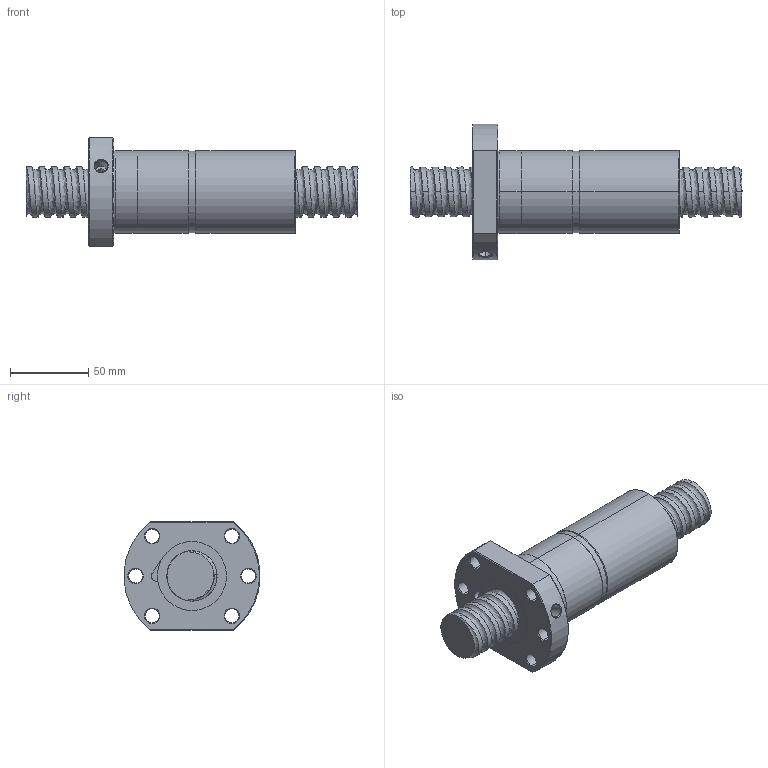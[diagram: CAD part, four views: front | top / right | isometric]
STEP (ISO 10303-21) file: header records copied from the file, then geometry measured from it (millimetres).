
FILE_DESCRIPTION (( 'STEP AP214' ), '1' );
FILE_NAME ('FDDC03208T5-D-C.STEP', '2010-07-06T03:17:46', ( 'XPAUTO' ), ( 'XPAUTO' ), 'SwSTEP 2.0', 'SolidWorks 2007', '' );
FILE_SCHEMA (( 'AUTOMOTIVE_DESIGN' ));
Length unit declared in the file: millimetre
Products named in the file (3): FDDC03208T5-D-C.sldasm-Part-2_預設; FDDC03208T5-D-C.sldasm-Part-1_預設; FDDC03208T5-D-C
Assembly tree (2 placements, depth 2):
  FDDC03208T5-D-C
    FDDC03208T5-D-C.sldasm-Part-2_預設
    FDDC03208T5-D-C.sldasm-Part-1_預設
Bounding box: 212 x 86.7 x 69 mm (x, y, z)
Volume: 378008.4 mm3; surface area: 75194.5 mm2
Topology: 2 solids, 2 shells, 153 faces, 389 edges, 245 vertices
Faces by surface type: cylinder 94, cone 24, plane 22, torus 8, bspline 5
Entity records: 46442 total; most frequent: CARTESIAN_POINT 42837, ORIENTED_EDGE 778, DIRECTION 673, EDGE_CURVE 389, AXIS2_PLACEMENT_3D 269, VERTEX_POINT 245, EDGE_LOOP 174, ADVANCED_FACE 153
